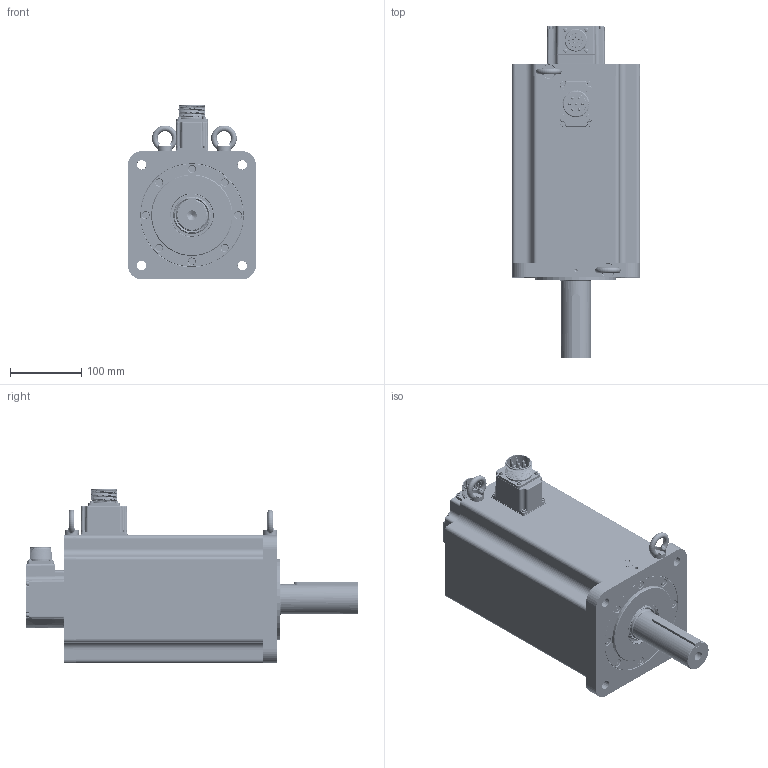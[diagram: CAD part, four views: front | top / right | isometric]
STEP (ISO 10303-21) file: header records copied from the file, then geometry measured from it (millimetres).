
FILE_DESCRIPTION(/* description */ ('AdapterTestApp'),/* implementation_level */ '2;1');
FILE_NAME(/* name */ 'TCE180 6G XX 3 A1 0 C3',/* time_stamp */ '2015-09-11T17:18:34+02:00',/* author */ ('AdapterTestApp'),/* organization */ ('Siemens PLM Software'),/* preprocessor_version */ 'ST-DEVELOPER v15.6',/* originating_system */ 'DEX',/* authorisation */ $);
FILE_SCHEMA (('AUTOMOTIVE_DESIGN {1 0 10303 214 3 1 1}'));
Products named in the file (35): TCE180 6G XX 3 A1 0 C3_vuoto; 003251022004; 005123001580; 005911000216; 003103001503; 005911000493; 005911000479; 005204000003; 005123001110; 005204000001; back cover TCE100 + CN MIL; 001107000620; 003303000373; 005911000525; 003108015154; 005204000002; 005119001104; N0180030; 005911000006; 005321000010; 003251022003; 005008000953; U5180005_vuoto; 003120002510; 005911000201; 003799000581; 007117001753; 003303000370; 003303000372; 005911000190; cap-M3 nudo; 005008000664; 005008000690; 003155002050; 005113001080
Assembly tree (66 placements, depth 3):
  TCE180 6G XX 3 A1 0 C3_vuoto
    003251022004
    005123001580
    005911000216  x4
    003103001503
    005911000493  x4
    005911000479  x8
    005204000003
    005123001110
    005204000001
    back cover TCE100 + CN MIL
      001107000620
      003303000373
      005911000525  x4
      003108015154
    005204000002
    005119001104
    N0180030
    005911000006  x8
    005321000010  x2
    003251022003
    005008000953
    U5180005_vuoto
      003120002510
      005911000201  x8
      003799000581
      007117001753
      003303000370
      003303000372
      005911000190
      cap-M3 nudo
    005008000664
    005008000690  x2
    003155002050
    005113001080
Bounding box: 180.3 x 466 x 245.3 mm (x, y, z)
Volume: 4073095.1 mm3; surface area: 854977.8 mm2
Topology: 80 solids, 87 shells, 2851 faces, 6989 edges, 4479 vertices
Faces by surface type: plane 1380, cylinder 711, cone 223, torus 183, bspline 182, extrusion 88, sphere 82, revolution 2
Full cylindrical faces by diameter (mm): 1.423 x1, 1.523 x1, 2 x34, 2.163 x1, 2.459 x21, 2.5 x1, 2.6 x1, 2.9 x4, 3 x30, 3.048 x4, 3.2 x1, 3.242 x6, 3.5 x15, 3.6 x7, 3.7 x4, 4 x9, 4.134 x24, 4.4 x15, 4.7 x8, 4.917 x2, 5 x16, 5.3 x1, 5.5 x15, 5.6 x4, 6 x7, 6.6 x6, 6.647 x22, 7 x8, 7.2 x1, 8 x16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
Entity records: 85787 total; most frequent: CARTESIAN_POINT 32687, DIRECTION 10504, ORIENTED_EDGE 10074, EDGE_CURVE 5037, AXIS2_PLACEMENT_3D 3920, VERTEX_POINT 3583, FACE_BOUND 3352, EDGE_LOOP 3292
